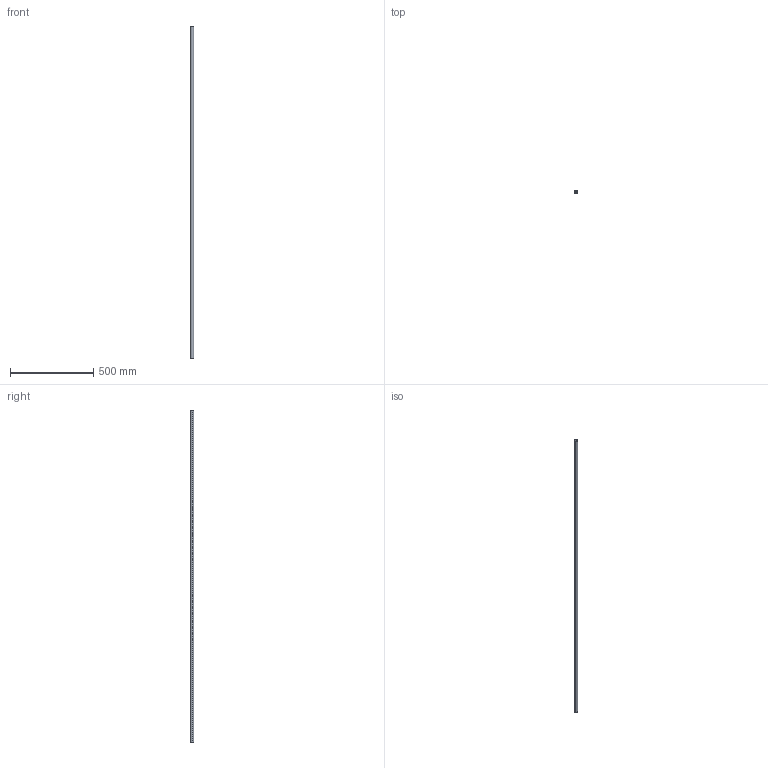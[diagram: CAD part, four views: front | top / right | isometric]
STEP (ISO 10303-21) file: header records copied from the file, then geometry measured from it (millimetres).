
FILE_DESCRIPTION (( 'STEP AP214' ), '1' );
FILE_NAME ('PAT20-2000.STEP', '2022-12-13T00:41:09', ( '' ), ( '' ), 'SwSTEP 2.0', 'SolidWorks 2018', '' );
FILE_SCHEMA (( 'AUTOMOTIVE_DESIGN' ));
Length unit declared in the file: millimetre
Products named in the file (1): PAT20-2000
Bounding box: 20 x 20 x 2000 mm (x, y, z)
Volume: 226194.7 mm3; surface area: 226420.9 mm2
Topology: 1 solids, 1 shells, 6 faces, 12 edges, 8 vertices
Faces by surface type: cylinder 4, plane 2
Entity records: 202 total; most frequent: DIRECTION 34, CARTESIAN_POINT 27, ORIENTED_EDGE 24, AXIS2_PLACEMENT_3D 15, EDGE_CURVE 12, VERTEX_POINT 8, CIRCLE 8, EDGE_LOOP 8
